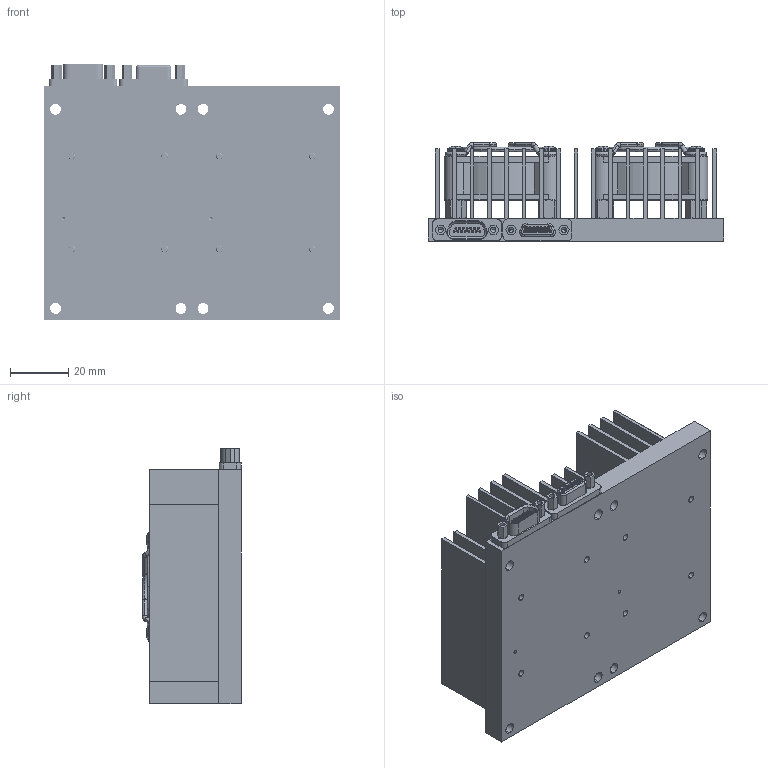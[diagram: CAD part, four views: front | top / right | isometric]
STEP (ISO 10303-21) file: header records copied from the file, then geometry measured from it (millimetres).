
FILE_DESCRIPTION (( 'STEP AP214' ), '1' );
FILE_NAME ('QS-ACC056.STEP', '2023-09-29T18:41:56', ( '' ), ( '' ), 'SwSTEP 2.0', 'SolidWorks 2021', '' );
FILE_SCHEMA (( 'AUTOMOTIVE_DESIGN' ));
Length unit declared in the file: inch
Products named in the file (10): QS-CHA407; QS-CON024; #4-40 X 0.1875_91075A430; QS-HDW207 (QSX-2_56-JACKPOST-REV-A); QS-ACC056; #0-80 X 0.125 18-8 Socket Head Cap Screw; QS-CON027; #4-40 X 0.875 18-8 Pan Head Screw; QS-HDW021_19155K91; QS-FAN009
Assembly tree (31 placements, depth 2):
  QS-ACC056
    QS-CHA407
    #0-80 X 0.125 18-8 Socket Head Cap Screw  x4
    #4-40 X 0.1875_91075A430  x8
    QS-HDW021_19155K91  x2
    QS-FAN009  x2
    #4-40 X 0.875 18-8 Pan Head Screw  x8
    QS-HDW207 (QSX-2_56-JACKPOST-REV-A)  x4
    QS-CON024
    QS-CON027
Bounding box: 101.6 x 34.02 x 87.83 mm (x, y, z)
Volume: 114587 mm3; surface area: 89400 mm2
Topology: 47 solids, 47 shells, 2185 faces, 5420 edges, 3446 vertices
Faces by surface type: cylinder 879, plane 760, cone 289, torus 185, bspline 56, sphere 16
Entity records: 38417 total; most frequent: CARTESIAN_POINT 8564, DIRECTION 5405, ORIENTED_EDGE 4946, EDGE_CURVE 2473, AXIS2_PLACEMENT_3D 2091, VERTEX_POINT 1595, LINE 1223, VECTOR 1223
